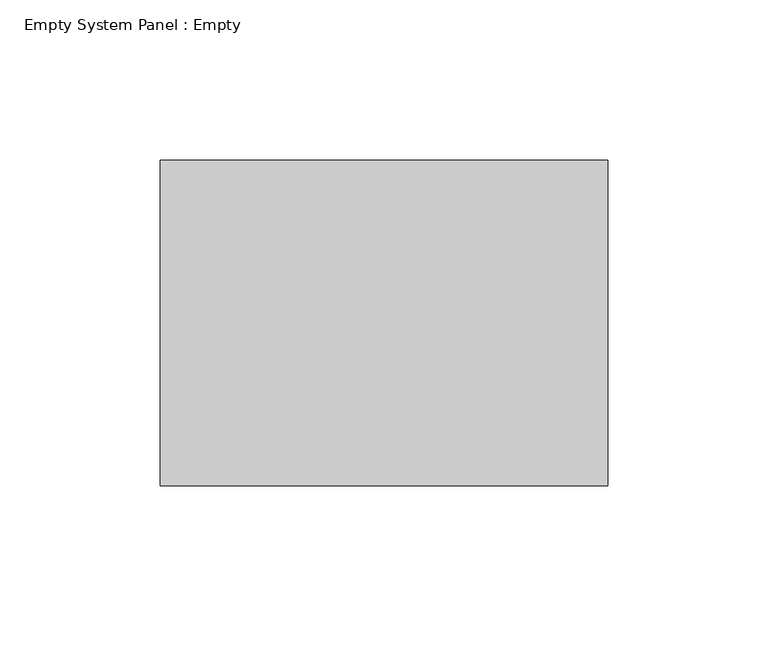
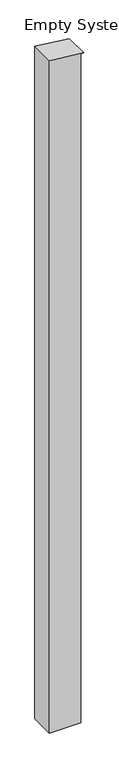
"""IFC4 building model written with IfcOpenShell, lengths in millimetres: plate geometry, Empty System Panel : Empty."""

import ifcopenshell
import ifcopenshell.guid

model = None  # the IFC model being written
_history = None  # IfcOwnerHistory: only IFC2X3 demands one
_inside = {}  # id of a spatial element -> (the spatial element, [elements in it])
_under = {}  # id of a project, library or spatial element -> (it, [spatial elements below it])
_declared = {}  # id of a project -> (the project, [libraries it declares])
_typed = {}  # id of a type object -> (the type object, [elements of that type])
_made_of = {}  # id of a material, layer set ... -> (it, [elements and type objects made of it])


def new_model(schema):
    """Start an empty IFC model of exactly this schema.

    Asked for "IFC4X3", IfcOpenShell would pick the latest addendum, in which some entities
    have other attributes; the version numbers below select the first issue.
    IFC2X3 requires an IfcOwnerHistory on every rooted entity: one is made here for all.
    """
    global model, _history
    if schema == "IFC4X3":
        model = ifcopenshell.file(schema_version=(4, 3, 0, 0))
    else:
        model = ifcopenshell.file(schema=schema)
    _inside.clear()
    _under.clear()
    _declared.clear()
    _typed.clear()
    _made_of.clear()
    _history = None
    if model.schema == "IFC2X3":
        org = make("IfcOrganization", Name="unknown")
        user = make(
            "IfcPersonAndOrganization",
            ThePerson=make("IfcPerson", FamilyName="unknown"),
            TheOrganization=org,
        )
        app = make(
            "IfcApplication",
            ApplicationDeveloper=org,
            Version="unknown",
            ApplicationFullName="unknown",
            ApplicationIdentifier="unknown",
        )
        _history = make(
            "IfcOwnerHistory",
            OwningUser=user,
            OwningApplication=app,
            ChangeAction="ADDED",
            CreationDate=0,
        )
    return model


def make(cls, **values):
    """One entity of the class cls with the attributes given. An attribute that is None is left unset."""
    return model.create_entity(
        cls, **{name: value for name, value in values.items() if value is not None}
    )


def rooted(cls, **values):
    """An entity with a GlobalId (a new one), such as an element, a storey or a relation."""
    return make(cls, GlobalId=ifcopenshell.guid.new(), OwnerHistory=_history, **values)


def si_unit(unit_type, name, prefix=None):
    """IfcSIUnit, for example si_unit("LENGTHUNIT", "METRE", prefix="MILLI")."""
    return make("IfcSIUnit", UnitType=unit_type, Prefix=prefix, Name=name)


def assignment(units):
    """IfcUnitAssignment: the units of a project."""
    return None if units is None else make("IfcUnitAssignment", Units=units)


def point(xyz):
    """IfcCartesianPoint."""
    return None if xyz is None else make("IfcCartesianPoint", Coordinates=xyz)


def direction(xyz):
    """IfcDirection."""
    return None if xyz is None else make("IfcDirection", DirectionRatios=xyz)


def frame(location, z_axis=None, x_axis=None):
    """IfcAxis2Placement3D, a coordinate frame: its origin and axes. An axis left out is left unset."""
    return make(
        "IfcAxis2Placement3D",
        Location=point(location),
        Axis=direction(z_axis),
        RefDirection=direction(x_axis),
    )


def origin():
    """The frame at (0, 0, 0) with its axes left unset."""
    return frame((0.0, 0.0, 0.0))


def place(relative_to, where):
    """IfcLocalPlacement: puts the frame where relative to a parent placement (None: the world)."""
    return make(
        "IfcLocalPlacement", PlacementRelTo=relative_to, RelativePlacement=where
    )


def context(
    kind, dimensions, precision=None, world=None, true_north=None, identifier=None
):
    """IfcGeometricRepresentationContext, for example the 3D "Model" context."""
    return make(
        "IfcGeometricRepresentationContext",
        ContextIdentifier=identifier,
        ContextType=kind,
        CoordinateSpaceDimension=dimensions,
        Precision=precision,
        WorldCoordinateSystem=world,
        TrueNorth=true_north,
    )


def project(units=None, contexts=None):
    """IfcProject with its units and contexts."""
    return rooted(
        "IfcProject",
        Name="project",
        RepresentationContexts=contexts,
        UnitsInContext=assignment(units),
    )


def spatial(cls, under=None, at=None, **own):
    """A site, building, storey or space (cls), placed at a placement, below another one or the project."""
    s = rooted(cls, ObjectPlacement=at, **own)
    if under is not None:
        _under.setdefault(under.id(), (under, []))[1].append(s)
    return s


def polyline(points):
    """IfcPolyline through the points."""
    return make("IfcPolyline", Points=[point(p) for p in points])


def outline(outer, holes=None, kind="AREA"):
    """IfcArbitraryClosedProfileDef: a profile drawn as a closed curve; with holes, ...WithVoids."""
    if holes is None:
        return make("IfcArbitraryClosedProfileDef", ProfileType=kind, OuterCurve=outer)
    return make(
        "IfcArbitraryProfileDefWithVoids",
        ProfileType=kind,
        OuterCurve=outer,
        InnerCurves=holes,
    )


def extrude(swept, where, along, depth):
    """IfcExtrudedAreaSolid: the profile swept, set in the frame where, extruded along a direction by depth."""
    return make(
        "IfcExtrudedAreaSolid",
        SweptArea=swept,
        Position=where,
        ExtrudedDirection=direction(along),
        Depth=depth,
    )


def shape(context_of_items, identifier, shape_type, items):
    """IfcShapeRepresentation: the items that make up one representation, for example the "Body"."""
    return make(
        "IfcShapeRepresentation",
        ContextOfItems=context_of_items,
        RepresentationIdentifier=identifier,
        RepresentationType=shape_type,
        Items=items,
    )


def source(mapping_origin, context_of_items, identifier, shape_type, items):
    """IfcRepresentationMap: a shape defined once, which mapped items show again and again."""
    return make(
        "IfcRepresentationMap",
        MappingOrigin=mapping_origin,
        MappedRepresentation=shape(context_of_items, identifier, shape_type, items),
    )


def transform(
    local_origin,
    x_axis=None,
    y_axis=None,
    z_axis=None,
    scale=None,
    scale2=None,
    scale3=None,
    uniform=True,
):
    """IfcCartesianTransformationOperator3D, or its non-uniform kind. x_axis, y_axis, z_axis: its Axis1, 2, 3."""
    if uniform:
        return make(
            "IfcCartesianTransformationOperator3D",
            Axis1=direction(x_axis),
            Axis2=direction(y_axis),
            LocalOrigin=point(local_origin),
            Scale=scale,
            Axis3=direction(z_axis),
        )
    return make(
        "IfcCartesianTransformationOperator3DnonUniform",
        Axis1=direction(x_axis),
        Axis2=direction(y_axis),
        LocalOrigin=point(local_origin),
        Scale=scale,
        Axis3=direction(z_axis),
        Scale2=scale2,
        Scale3=scale3,
    )


def mapped(mapping_source, mapping_target):
    """IfcMappedItem: shows the shape of a source again, moved by a transform."""
    return make(
        "IfcMappedItem", MappingSource=mapping_source, MappingTarget=mapping_target
    )


def made_of(thing, what):
    """Note that an element or type object is made of a material, layer set ...; save() writes the relation."""
    if what is not None:
        _made_of.setdefault(what.id(), (what, []))[1].append(thing)
    return thing


def element(
    cls,
    number,
    at=None,
    inside=None,
    cuts=None,
    type_object=None,
    material=None,
    context=None,
    identifier="Body",
    shape_type=None,
    held_by="IfcProductDefinitionShape",
    body=None,
    shapes=None,
    **own,
):
    """One element of the class cls, such as IfcWall. Its Tag is "e" and its number.

    at: its placement. inside: the storey or other place that contains it. cuts: it is an
    opening in that element (IfcRelVoidsElement). A single representation is given by context,
    identifier, shape_type and body (its items); several are given by shapes. held_by: the class
    of the entity that holds the representations. save() writes the other relations.
    """
    e = rooted(cls, Tag="e%d" % number, ObjectPlacement=at, **own)
    if body is not None:
        shapes = [shape(context, identifier, shape_type, body)]
    if shapes is not None:
        e.Representation = make(held_by, Representations=shapes)
    if inside is not None:
        _inside.setdefault(inside.id(), (inside, []))[1].append(e)
    if cuts is not None:
        rooted(
            "IfcRelVoidsElement", RelatingBuildingElement=cuts, RelatedOpeningElement=e
        )
    if type_object is not None:
        _typed.setdefault(type_object.id(), (type_object, []))[1].append(e)
    return made_of(e, material)


def aggregate(whole, parts):
    """IfcRelAggregates: a whole, such as a stair, and the parts it consists of."""
    return rooted("IfcRelAggregates", RelatingObject=whole, RelatedObjects=parts)


def save(model, path):
    """Write the relations noted so far, then the file.

    IfcRelAggregates (storeys below a building ...), IfcRelContainedInSpatialStructure (elements
    in a storey), IfcRelDefinesByType, IfcRelAssociatesMaterial and IfcRelDeclares: one each for
    every whole, place, type object, material and project.
    """
    for whole, parts in _under.values():
        aggregate(whole, parts)
    for where, things in _inside.values():
        rooted(
            "IfcRelContainedInSpatialStructure",
            RelatedElements=things,
            RelatingStructure=where,
        )
    for kind, things in _typed.values():
        rooted("IfcRelDefinesByType", RelatedObjects=things, RelatingType=kind)
    for what, things in _made_of.values():
        rooted("IfcRelAssociatesMaterial", RelatedObjects=things, RelatingMaterial=what)
    for by, libraries in _declared.values():
        rooted("IfcRelDeclares", RelatingContext=by, RelatedDefinitions=libraries)
    model.write(path)


def empty_system_panel_empty_dd8693ec(model_context):
    return source(origin(), model_context, "Body", "SweptSolid", [
        extrude(outline(polyline([(0.0, -69.85), (0.0, 57.15), (2877.7219842, 57.15), (2877.7219842, 69.85), (2893.3471742, -69.85), (0.0, -69.85)])), frame((0.0, -50.8, 0.0), z_axis=(0.0, 1.0, 0.0), x_axis=(0.0, 0.0, 1.0)), (0.0, 0.0, 1.0), 101.6),
    ])


if __name__ == "__main__":
    model = new_model("IFC4")
    model_context = context("Model", 3, world=origin())
    ifc_project = project(units=[si_unit("LENGTHUNIT", "METRE", prefix="MILLI")], contexts=[model_context])
    site = spatial("IfcSite", under=ifc_project)
    building = spatial("IfcBuilding", under=site)
    placement = place(None, origin())
    empty_system_panel_empty_shape = empty_system_panel_empty_dd8693ec(model_context)
    element("IfcPlate", 1, ObjectType="Empty System Panel : Empty", at=placement, inside=building, context=model_context, shape_type="MappedRepresentation", body=[
        mapped(empty_system_panel_empty_shape, transform((0.0, 0.0, 0.0), x_axis=(1.0, 0.0, 0.0), y_axis=(0.0, 1.0, 0.0), z_axis=(0.0, 0.0, 1.0))),
    ])
    save(model, "model.ifc")
